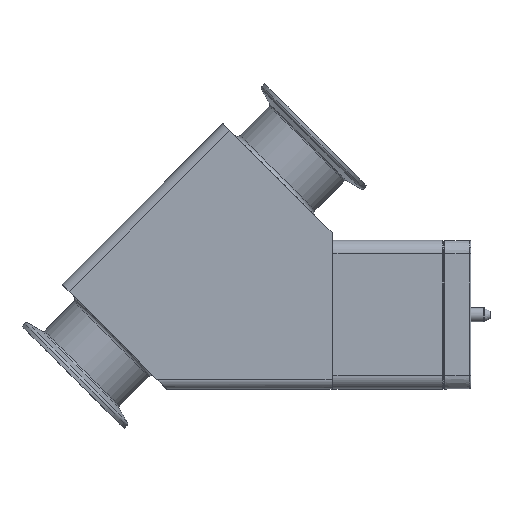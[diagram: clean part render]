
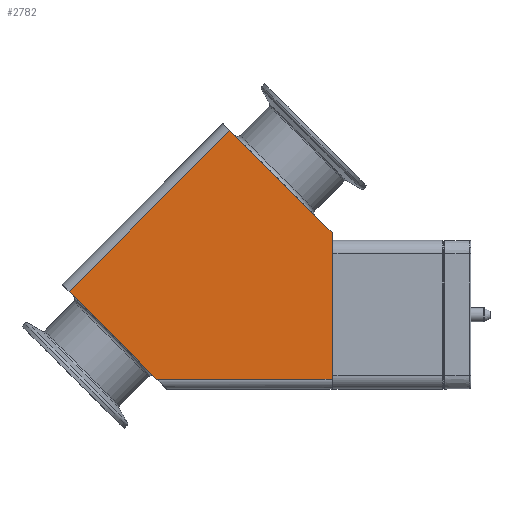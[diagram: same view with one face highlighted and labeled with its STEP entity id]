
A CAD part, top view. The second image highlights one B-rep face of the part: STEP entity #2782.
In plain terms, the highlighted planar face has unit normal (0, 0, 1).
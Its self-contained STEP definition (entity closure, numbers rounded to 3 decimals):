
#2782=ADVANCED_FACE('',(#3421),#3107,.T.);
#3107=PLANE('',#9907);
#3421=FACE_OUTER_BOUND('',#4007,.T.);
#4007=EDGE_LOOP('',(#6057,#6058,#6059,#6060,#6061));
#6057=ORIENTED_EDGE('',*,*,#7950,.T.);
#6058=ORIENTED_EDGE('',*,*,#7960,.T.);
#6059=ORIENTED_EDGE('',*,*,#7924,.T.);
#6060=ORIENTED_EDGE('',*,*,#7944,.T.);
#6061=ORIENTED_EDGE('',*,*,#7961,.T.);
#6885=VERTEX_POINT('',#15308);
#6886=VERTEX_POINT('',#15309);
#6904=VERTEX_POINT('',#15390);
#6909=VERTEX_POINT('',#15402);
#6910=VERTEX_POINT('',#15404);
#7924=EDGE_CURVE('',#6885,#6886,#8607,.T.);
#7944=EDGE_CURVE('',#6886,#6904,#8612,.T.);
#7950=EDGE_CURVE('',#6910,#6909,#8615,.T.);
#7960=EDGE_CURVE('',#6909,#6885,#8622,.T.);
#7961=EDGE_CURVE('',#6904,#6910,#8623,.T.);
#8607=LINE('',#15307,#9215);
#8612=LINE('',#15391,#9220);
#8615=LINE('',#15403,#9223);
#8622=LINE('',#15421,#9230);
#8623=LINE('',#15422,#9231);
#9215=VECTOR('',#11892,1.);
#9220=VECTOR('',#11931,1.);
#9223=VECTOR('',#11942,1.);
#9230=VECTOR('',#11961,1.);
#9231=VECTOR('',#11962,1.);
#9907=AXIS2_PLACEMENT_3D('',#15423,#11963,#11964);
#11892=DIRECTION('',(-0.707,-0.707,0.));
#11931=DIRECTION('',(0.,-1.,0.));
#11942=DIRECTION('',(0.,1.,0.));
#11961=DIRECTION('',(-0.707,0.707,0.));
#11962=DIRECTION('',(1.,0.,0.));
#11963=DIRECTION('',(0.,0.,1.));
#11964=DIRECTION('',(1.,0.,0.));
#15307=CARTESIAN_POINT('',(57.276,137.276,77.));
#15308=CARTESIAN_POINT('',(53.74,133.74,77.));
#15309=CARTESIAN_POINT('',(0.,80.,77.));
#15390=CARTESIAN_POINT('',(0.,5.,77.));
#15391=CARTESIAN_POINT('',(0.,80.,77.));
#15402=CARTESIAN_POINT('',(118.,69.48,77.));
#15403=CARTESIAN_POINT('',(118.,0.,77.));
#15404=CARTESIAN_POINT('',(118.,5.,77.));
#15421=CARTESIAN_POINT('',(53.74,133.74,77.));
#15422=CARTESIAN_POINT('',(118.,5.,77.));
#15423=CARTESIAN_POINT('',(118.,0.,77.));
